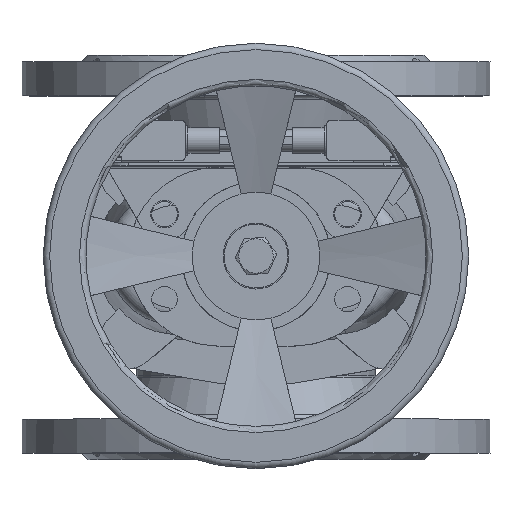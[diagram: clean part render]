
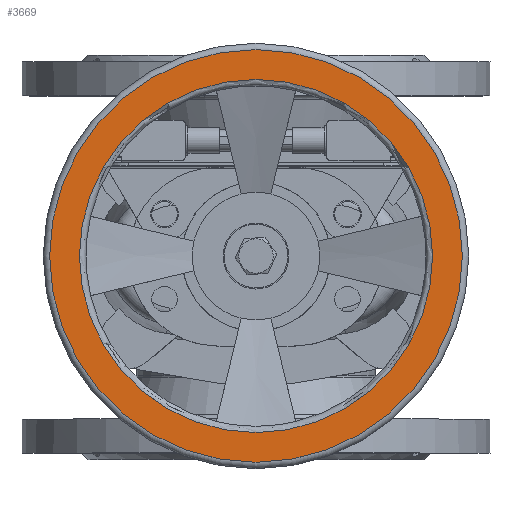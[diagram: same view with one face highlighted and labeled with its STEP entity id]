
A CAD part, top view. The second image highlights one B-rep face of the part: STEP entity #3669.
In plain terms, the highlighted planar face has unit normal (0, 0, 1).
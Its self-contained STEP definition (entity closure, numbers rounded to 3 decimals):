
#3669=ADVANCED_FACE('',(#7560,#7562),#7564,.T.);
#7560=FACE_BOUND('',#7561,.T.);
#7561=EDGE_LOOP('',(#9840));
#7562=FACE_BOUND('',#7563,.T.);
#7563=EDGE_LOOP('',(#9841));
#7564=PLANE('',#7565);
#7565=AXIS2_PLACEMENT_3D('',#7566,#7567,#7568);
#7566=CARTESIAN_POINT('',(0.,0.,432.));
#7567=DIRECTION('',(0.,0.,1.));
#7568=DIRECTION('',(0.,-1.,0.));
#9840=ORIENTED_EDGE('',*,*,#10976,.T.);
#9841=ORIENTED_EDGE('',*,*,#10968,.F.);
#10968=EDGE_CURVE('',#12698,#12698,#12699,.T.);
#10976=EDGE_CURVE('',#12714,#12714,#12715,.T.);
#12698=VERTEX_POINT('',#19091);
#12699=CIRCLE('',#19092,83.);
#12714=VERTEX_POINT('',#19125);
#12715=CIRCLE('',#19126,97.);
#19091=CARTESIAN_POINT('',(0.,-83.,432.));
#19092=AXIS2_PLACEMENT_3D('',#19093,#19094,#19095);
#19093=CARTESIAN_POINT('',(0.,0.,432.));
#19094=DIRECTION('',(0.,0.,1.));
#19095=DIRECTION('',(0.,-1.,0.));
#19125=CARTESIAN_POINT('',(0.,-97.,432.));
#19126=AXIS2_PLACEMENT_3D('',#19127,#19128,#19129);
#19127=CARTESIAN_POINT('',(0.,0.,432.));
#19128=DIRECTION('',(0.,0.,1.));
#19129=DIRECTION('',(0.,-1.,0.));
